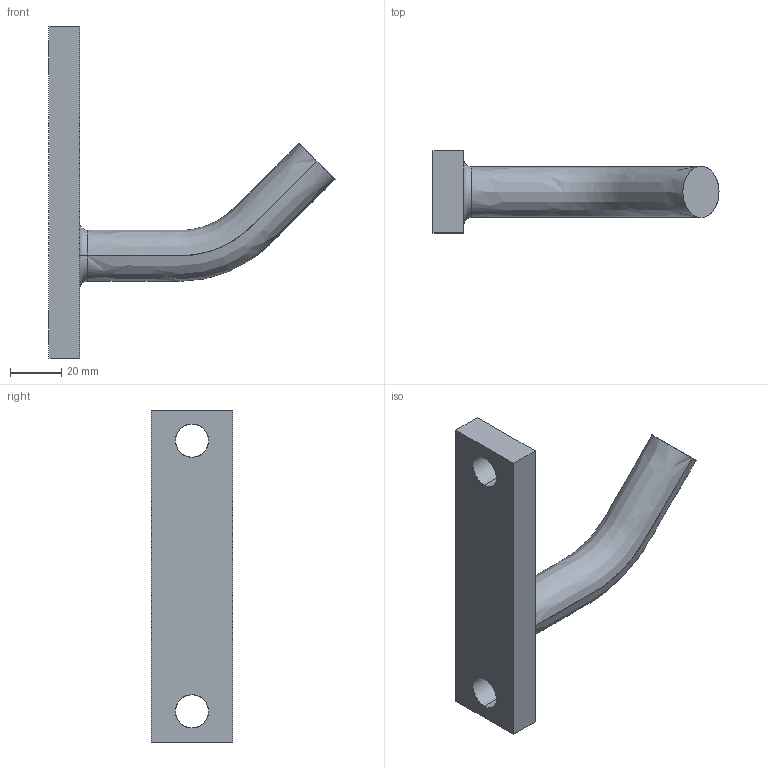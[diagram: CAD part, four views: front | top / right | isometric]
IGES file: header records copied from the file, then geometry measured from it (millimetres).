
Global section: file name: E:\UnigraphicsGraphicData\MISUMI_PRESS-PARTS\IGES\3d_dvj100_01853_r00.igs; native system: NX V5.0; preprocessor: UGS NX IGES V5.0; author: MISUMI; date: 20110105.160603; units: millimetre
Bounding box: 112 x 32 x 130 mm (x, y, z)
Surface area: 19274.7 mm2 (no closed solid volume)
Topology: 0 solids, 0 shells, 15 faces, 109 edges, 109 vertices
Faces by surface type: bspline 15
